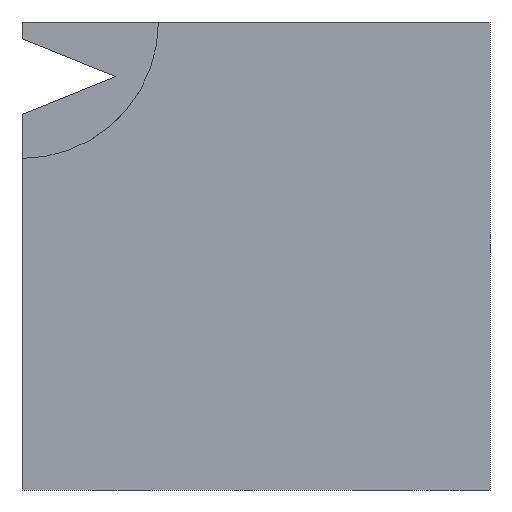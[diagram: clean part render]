
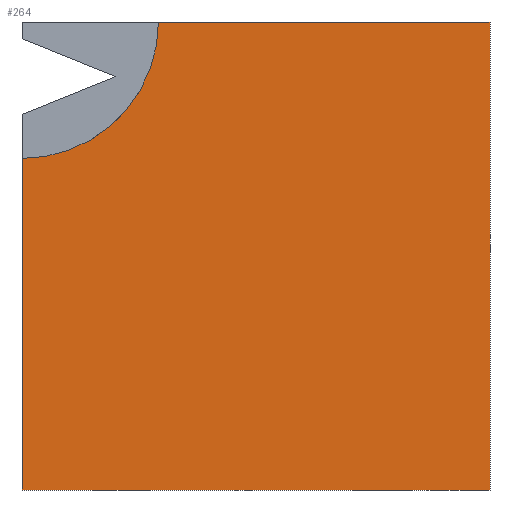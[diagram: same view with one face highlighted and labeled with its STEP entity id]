
A CAD part, front view. The second image highlights one B-rep face of the part: STEP entity #264.
In plain terms, the highlighted planar face has unit normal (0, -1, 0).
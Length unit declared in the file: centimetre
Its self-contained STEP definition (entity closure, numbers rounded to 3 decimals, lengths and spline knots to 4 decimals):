
#13 = CARTESIAN_POINT ( 'NONE',  ( 0., 0., 1000. ) ) ;
#19 = VERTEX_POINT ( 'NONE', #405 ) ;
#29 = ORIENTED_EDGE ( 'NONE', *, *, #211, .F. ) ;
#35 = EDGE_CURVE ( 'NONE', #268, #19, #389, .T. ) ;
#51 = CARTESIAN_POINT ( 'NONE',  ( 0., 0., 708.4468 ) ) ;
#59 = FACE_OUTER_BOUND ( 'NONE', #214, .T. ) ;
#66 = CARTESIAN_POINT ( 'NONE',  ( 1000., 0., 0. ) ) ;
#80 = DIRECTION ( 'NONE',  ( 0., 0., -1. ) ) ;
#99 = DIRECTION ( 'NONE',  ( 0., -1., 0. ) ) ;
#107 = CARTESIAN_POINT ( 'NONE',  ( 0., 0., 1000. ) ) ;
#109 = CARTESIAN_POINT ( 'NONE',  ( 1000., 0., 1000. ) ) ;
#120 = VERTEX_POINT ( 'NONE', #236 ) ;
#132 = PLANE ( 'NONE',  #381 ) ;
#135 = LINE ( 'NONE', #13, #169 ) ;
#139 = AXIS2_PLACEMENT_3D ( 'NONE', #651, #99, #80 ) ;
#169 = VECTOR ( 'NONE', #390, 100. ) ;
#173 = CARTESIAN_POINT ( 'NONE',  ( 0., 0., 0. ) ) ;
#182 = EDGE_CURVE ( 'NONE', #120, #274, #352, .T. ) ;
#187 = CARTESIAN_POINT ( 'NONE',  ( 0., 0., 1000. ) ) ;
#211 = EDGE_CURVE ( 'NONE', #19, #120, #364, .T. ) ;
#214 = EDGE_LOOP ( 'NONE', ( #29, #698, #285, #497, #707 ) ) ;
#236 = CARTESIAN_POINT ( 'NONE',  ( 1000., 0., 1000. ) ) ;
#264 = ADVANCED_FACE ( 'NONE', ( #59 ), #132, .F. ) ;
#268 = VERTEX_POINT ( 'NONE', #51 ) ;
#274 = VERTEX_POINT ( 'NONE', #66 ) ;
#285 = ORIENTED_EDGE ( 'NONE', *, *, #413, .T. ) ;
#352 = LINE ( 'NONE', #109, #692 ) ;
#364 = LINE ( 'NONE', #107, #403 ) ;
#381 = AXIS2_PLACEMENT_3D ( 'NONE', #187, #557, #794 ) ;
#389 = CIRCLE ( 'NONE', #139, 291.5532 ) ;
#390 = DIRECTION ( 'NONE',  ( 0., 0., -1. ) ) ;
#403 = VECTOR ( 'NONE', #665, 100. ) ;
#405 = CARTESIAN_POINT ( 'NONE',  ( 291.5532, 0., 1000. ) ) ;
#413 = EDGE_CURVE ( 'NONE', #268, #714, #135, .T. ) ;
#477 = LINE ( 'NONE', #780, #662 ) ;
#486 = DIRECTION ( 'NONE',  ( 0., 0., -1. ) ) ;
#497 = ORIENTED_EDGE ( 'NONE', *, *, #554, .T. ) ;
#554 = EDGE_CURVE ( 'NONE', #714, #274, #477, .T. ) ;
#557 = DIRECTION ( 'NONE',  ( 0., 1., 0. ) ) ;
#598 = DIRECTION ( 'NONE',  ( 1., 0., 0. ) ) ;
#651 = CARTESIAN_POINT ( 'NONE',  ( 0., 0., 1000. ) ) ;
#662 = VECTOR ( 'NONE', #598, 100. ) ;
#665 = DIRECTION ( 'NONE',  ( 1., 0., 0. ) ) ;
#692 = VECTOR ( 'NONE', #486, 100. ) ;
#698 = ORIENTED_EDGE ( 'NONE', *, *, #35, .F. ) ;
#707 = ORIENTED_EDGE ( 'NONE', *, *, #182, .F. ) ;
#714 = VERTEX_POINT ( 'NONE', #173 ) ;
#780 = CARTESIAN_POINT ( 'NONE',  ( 0., 0., 0. ) ) ;
#794 = DIRECTION ( 'NONE',  ( 0., 0., 1. ) ) ;
